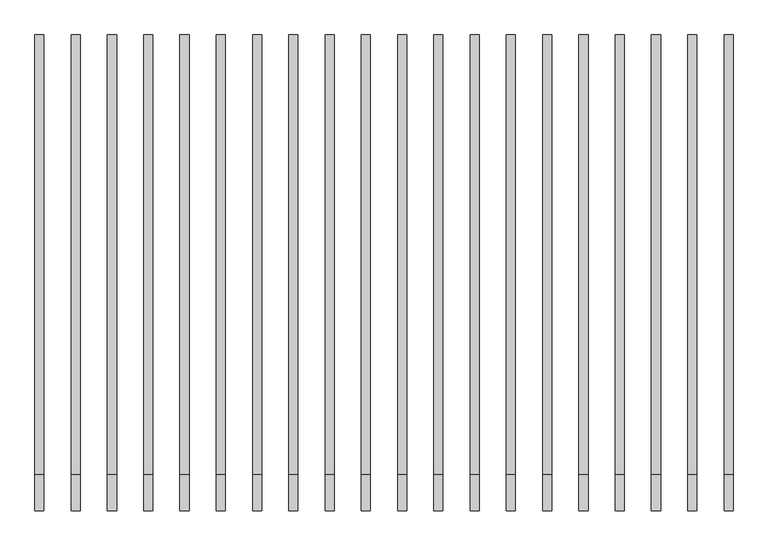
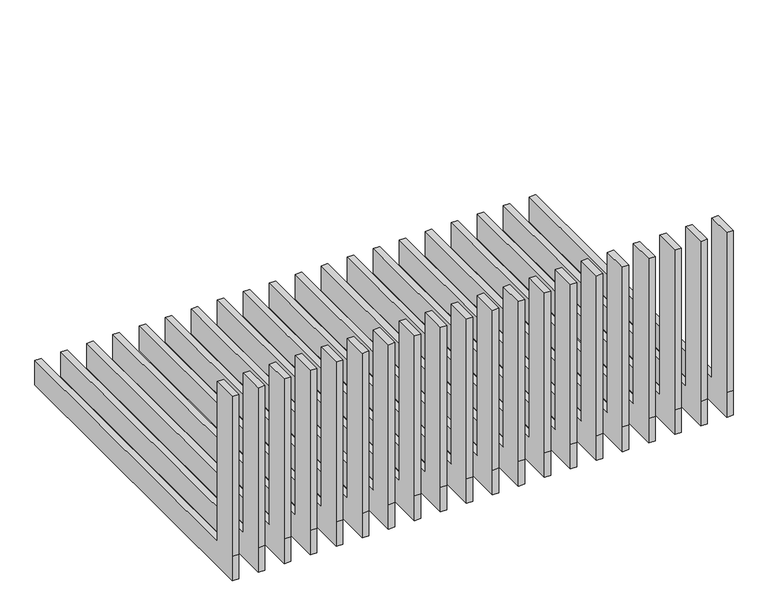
"""IFC4 building model written with IfcOpenShell, lengths in millimetres: railing geometry, 南向隔柵59 : 南向隔柵1."""

from ifc_helpers import new_model, si_unit, frame, origin, place, context, project, spatial, polyline, outline, extrude, source, transform, mapped, element, save


def railing_e0f793d8(model_context):
    return source(origin(), model_context, "Body", "SweptSolid", [
        extrude(outline(polyline([(-27879.9049261, 11600.0), (-23029.9049261, 11600.0), (-23029.9049261, 11200.0), (-28279.9049261, 11200.0), (-28279.9049261, 11600.0), (-28279.9049261, 14200.0), (-27879.9049261, 14200.0), (-27879.9049261, 11600.0)])), frame((-7459.1310053, 0.0, 0.0), z_axis=(1.0, 0.0, 0.0), x_axis=(0.0, 1.0, 0.0)), (0.0, 0.0, 1.0), 100.0),
        extrude(outline(polyline([(-27879.9049261, 11600.0), (-23029.9049261, 11600.0), (-23029.9049261, 11200.0), (-28279.9049261, 11200.0), (-28279.9049261, 11600.0), (-28279.9049261, 14200.0), (-27879.9049261, 14200.0), (-27879.9049261, 11600.0)])), frame((-7059.1310053, 0.0, 0.0), z_axis=(1.0, 0.0, 0.0), x_axis=(0.0, 1.0, 0.0)), (0.0, 0.0, 1.0), 100.0),
        extrude(outline(polyline([(-27879.9049261, 11600.0), (-23029.9049261, 11600.0), (-23029.9049261, 11200.0), (-28279.9049261, 11200.0), (-28279.9049261, 11600.0), (-28279.9049261, 14200.0), (-27879.9049261, 14200.0), (-27879.9049261, 11600.0)])), frame((-6659.1310053, 0.0, 0.0), z_axis=(1.0, 0.0, 0.0), x_axis=(0.0, 1.0, 0.0)), (0.0, 0.0, 1.0), 100.0),
        extrude(outline(polyline([(-27879.9049261, 11600.0), (-23029.9049261, 11600.0), (-23029.9049261, 11200.0), (-28279.9049261, 11200.0), (-28279.9049261, 11600.0), (-28279.9049261, 14200.0), (-27879.9049261, 14200.0), (-27879.9049261, 11600.0)])), frame((-6259.1310054, 0.0, 0.0), z_axis=(1.0, 0.0, 0.0), x_axis=(0.0, 1.0, 0.0)), (0.0, 0.0, 1.0), 100.0),
        extrude(outline(polyline([(-27879.9049261, 11600.0), (-23029.9049261, 11600.0), (-23029.9049261, 11200.0), (-28279.9049261, 11200.0), (-28279.9049261, 11600.0), (-28279.9049261, 14200.0), (-27879.9049261, 14200.0), (-27879.9049261, 11600.0)])), frame((-5859.1310054, 0.0, 0.0), z_axis=(1.0, 0.0, 0.0), x_axis=(0.0, 1.0, 0.0)), (0.0, 0.0, 1.0), 100.0),
        extrude(outline(polyline([(-27879.9049261, 11600.0), (-23029.9049261, 11600.0), (-23029.9049261, 11200.0), (-28279.9049261, 11200.0), (-28279.9049261, 11600.0), (-28279.9049261, 14200.0), (-27879.9049261, 14200.0), (-27879.9049261, 11600.0)])), frame((-5459.1310054, 0.0, 0.0), z_axis=(1.0, 0.0, 0.0), x_axis=(0.0, 1.0, 0.0)), (0.0, 0.0, 1.0), 100.0),
        extrude(outline(polyline([(-27879.9049261, 11600.0), (-23029.9049261, 11600.0), (-23029.9049261, 11200.0), (-28279.9049261, 11200.0), (-28279.9049261, 11600.0), (-28279.9049261, 14200.0), (-27879.9049261, 14200.0), (-27879.9049261, 11600.0)])), frame((-5059.1310054, 0.0, 0.0), z_axis=(1.0, 0.0, 0.0), x_axis=(0.0, 1.0, 0.0)), (0.0, 0.0, 1.0), 100.0),
        extrude(outline(polyline([(-27879.9049261, 11600.0), (-23029.9049261, 11600.0), (-23029.9049261, 11200.0), (-28279.9049261, 11200.0), (-28279.9049261, 11600.0), (-28279.9049261, 14200.0), (-27879.9049261, 14200.0), (-27879.9049261, 11600.0)])), frame((-4659.1310054, 0.0, 0.0), z_axis=(1.0, 0.0, 0.0), x_axis=(0.0, 1.0, 0.0)), (0.0, 0.0, 1.0), 100.0),
        extrude(outline(polyline([(-27879.9049261, 11600.0), (-23029.9049261, 11600.0), (-23029.9049261, 11200.0), (-28279.9049261, 11200.0), (-28279.9049261, 11600.0), (-28279.9049261, 14200.0), (-27879.9049261, 14200.0), (-27879.9049261, 11600.0)])), frame((-4259.1310054, 0.0, 0.0), z_axis=(1.0, 0.0, 0.0), x_axis=(0.0, 1.0, 0.0)), (0.0, 0.0, 1.0), 100.0),
        extrude(outline(polyline([(-27879.9049261, 11600.0), (-23029.9049261, 11600.0), (-23029.9049261, 11200.0), (-28279.9049261, 11200.0), (-28279.9049261, 11600.0), (-28279.9049261, 14200.0), (-27879.9049261, 14200.0), (-27879.9049261, 11600.0)])), frame((-3859.1310054, 0.0, 0.0), z_axis=(1.0, 0.0, 0.0), x_axis=(0.0, 1.0, 0.0)), (0.0, 0.0, 1.0), 100.0),
        extrude(outline(polyline([(-27879.9049261, 11600.0), (-23029.9049261, 11600.0), (-23029.9049261, 11200.0), (-28279.9049261, 11200.0), (-28279.9049261, 11600.0), (-28279.9049261, 14200.0), (-27879.9049261, 14200.0), (-27879.9049261, 11600.0)])), frame((-3459.1310054, 0.0, 0.0), z_axis=(1.0, 0.0, 0.0), x_axis=(0.0, 1.0, 0.0)), (0.0, 0.0, 1.0), 100.0),
        extrude(outline(polyline([(-27879.9049261, 11600.0), (-23029.9049261, 11600.0), (-23029.9049261, 11200.0), (-28279.9049261, 11200.0), (-28279.9049261, 11600.0), (-28279.9049261, 14200.0), (-27879.9049261, 14200.0), (-27879.9049261, 11600.0)])), frame((-3059.1310054, 0.0, 0.0), z_axis=(1.0, 0.0, 0.0), x_axis=(0.0, 1.0, 0.0)), (0.0, 0.0, 1.0), 100.0),
        extrude(outline(polyline([(-27879.9049261, 11600.0), (-23029.9049261, 11600.0), (-23029.9049261, 11200.0), (-28279.9049261, 11200.0), (-28279.9049261, 11600.0), (-28279.9049261, 14200.0), (-27879.9049261, 14200.0), (-27879.9049261, 11600.0)])), frame((-2659.1310054, 0.0, 0.0), z_axis=(1.0, 0.0, 0.0), x_axis=(0.0, 1.0, 0.0)), (0.0, 0.0, 1.0), 100.0),
        extrude(outline(polyline([(-27879.9049261, 11600.0), (-23029.9049261, 11600.0), (-23029.9049261, 11200.0), (-28279.9049261, 11200.0), (-28279.9049261, 11600.0), (-28279.9049261, 14200.0), (-27879.9049261, 14200.0), (-27879.9049261, 11600.0)])), frame((-2259.1310054, 0.0, 0.0), z_axis=(1.0, 0.0, 0.0), x_axis=(0.0, 1.0, 0.0)), (0.0, 0.0, 1.0), 100.0),
        extrude(outline(polyline([(-27879.9049261, 11600.0), (-23029.9049261, 11600.0), (-23029.9049261, 11200.0), (-28279.9049261, 11200.0), (-28279.9049261, 11600.0), (-28279.9049261, 14200.0), (-27879.9049261, 14200.0), (-27879.9049261, 11600.0)])), frame((-1859.1310055, 0.0, 0.0), z_axis=(1.0, 0.0, 0.0), x_axis=(0.0, 1.0, 0.0)), (0.0, 0.0, 1.0), 100.0),
        extrude(outline(polyline([(-27879.9049261, 11600.0), (-23029.9049261, 11600.0), (-23029.9049261, 11200.0), (-28279.9049261, 11200.0), (-28279.9049261, 11600.0), (-28279.9049261, 14200.0), (-27879.9049261, 14200.0), (-27879.9049261, 11600.0)])), frame((-1459.1310055, 0.0, 0.0), z_axis=(1.0, 0.0, 0.0), x_axis=(0.0, 1.0, 0.0)), (0.0, 0.0, 1.0), 100.0),
        extrude(outline(polyline([(-27879.9049261, 11600.0), (-23029.9049261, 11600.0), (-23029.9049261, 11200.0), (-28279.9049261, 11200.0), (-28279.9049261, 11600.0), (-28279.9049261, 14200.0), (-27879.9049261, 14200.0), (-27879.9049261, 11600.0)])), frame((-1059.1310055, 0.0, 0.0), z_axis=(1.0, 0.0, 0.0), x_axis=(0.0, 1.0, 0.0)), (0.0, 0.0, 1.0), 100.0),
        extrude(outline(polyline([(-27879.9049261, 11600.0), (-23029.9049261, 11600.0), (-23029.9049261, 11200.0), (-28279.9049261, 11200.0), (-28279.9049261, 11600.0), (-28279.9049261, 14200.0), (-27879.9049261, 14200.0), (-27879.9049261, 11600.0)])), frame((-659.1310055, 0.0, 0.0), z_axis=(1.0, 0.0, 0.0), x_axis=(0.0, 1.0, 0.0)), (0.0, 0.0, 1.0), 100.0),
        extrude(outline(polyline([(-27879.9049261, 11600.0), (-23029.9049261, 11600.0), (-23029.9049261, 11200.0), (-28279.9049261, 11200.0), (-28279.9049261, 11600.0), (-28279.9049261, 14200.0), (-27879.9049261, 14200.0), (-27879.9049261, 11600.0)])), frame((-259.1310055, 0.0, 0.0), z_axis=(1.0, 0.0, 0.0), x_axis=(0.0, 1.0, 0.0)), (0.0, 0.0, 1.0), 100.0),
        extrude(outline(polyline([(-27879.9049261, 11600.0), (-23029.9049261, 11600.0), (-23029.9049261, 11200.0), (-28279.9049261, 11200.0), (-28279.9049261, 11600.0), (-28279.9049261, 14200.0), (-27879.9049261, 14200.0), (-27879.9049261, 11600.0)])), frame((140.8689945, 0.0, 0.0), z_axis=(1.0, 0.0, 0.0), x_axis=(0.0, 1.0, 0.0)), (0.0, 0.0, 1.0), 100.0),
    ])


if __name__ == "__main__":
    model = new_model("IFC4")
    model_context = context("Model", 3, world=origin())
    ifc_project = project(units=[si_unit("LENGTHUNIT", "METRE", prefix="MILLI")], contexts=[model_context])
    site = spatial("IfcSite", under=ifc_project)
    building = spatial("IfcBuilding", under=site)
    placement = place(None, origin())
    railing_shape = railing_e0f793d8(model_context)
    element("IfcRailing", 1, ObjectType="南向隔柵59 : 南向隔柵1", at=placement, inside=building, context=model_context, shape_type="MappedRepresentation", body=[
        mapped(railing_shape, transform((0.0, 0.0, 0.0), x_axis=(1.0, 0.0, 0.0), y_axis=(0.0, 1.0, 0.0), z_axis=(0.0, 0.0, 1.0))),
    ])
    save(model, "model.ifc")
